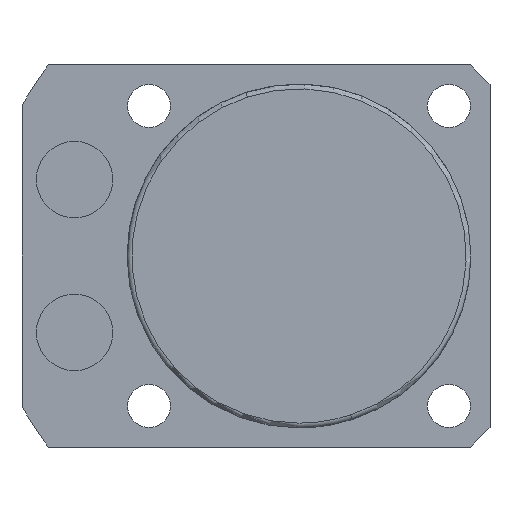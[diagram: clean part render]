
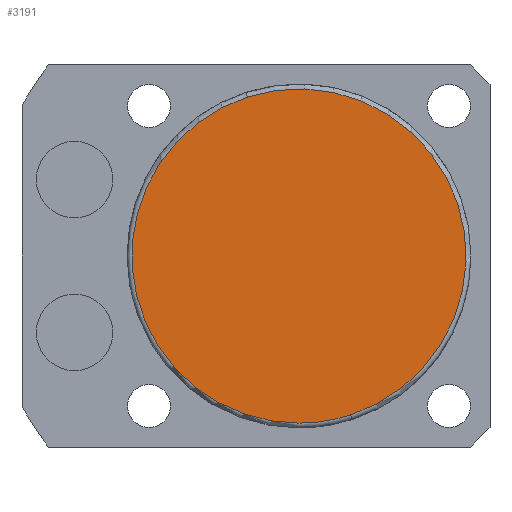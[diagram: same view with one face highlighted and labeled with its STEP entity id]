
A CAD part, front view. The second image highlights one B-rep face of the part: STEP entity #3191.
In plain terms, the highlighted planar face has unit normal (0, -1, 0).
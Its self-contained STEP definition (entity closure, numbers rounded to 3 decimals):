
#3157=CARTESIAN_POINT('',(0.0,-50.5,-17.5));
#3158=VERTEX_POINT('',#3157);
#3159=CARTESIAN_POINT('',(5.408,-50.5,-16.643));
#3160=VERTEX_POINT('',#3159);
#3161=CARTESIAN_POINT('',(0.0,-50.5,0.0));
#3162=DIRECTION('',(0.0,-1.0,0.0));
#3163=DIRECTION('',(0.0,0.0,-1.0));
#3164=AXIS2_PLACEMENT_3D('',#3161,#3162,#3163);
#3165=CIRCLE('',#3164,17.5);
#3166=EDGE_CURVE('no 2328',#3158,#3160,#3165,.T.);
#3167=ORIENTED_EDGE('',*,*,#3166,.T.);
#3168=CARTESIAN_POINT('',(-5.408,-50.5,16.643));
#3169=VERTEX_POINT('',#3168);
#3170=CARTESIAN_POINT('',(0.0,-50.5,0.0));
#3171=DIRECTION('',(0.0,-1.0,0.0));
#3172=DIRECTION('',(0.0,0.0,-1.0));
#3173=AXIS2_PLACEMENT_3D('',#3170,#3171,#3172);
#3174=CIRCLE('',#3173,17.5);
#3175=EDGE_CURVE('no 2334',#3160,#3169,#3174,.T.);
#3176=ORIENTED_EDGE('',*,*,#3175,.T.);
#3177=CARTESIAN_POINT('',(0.0,-50.5,0.0));
#3178=DIRECTION('',(0.0,-1.0,0.0));
#3179=DIRECTION('',(0.0,0.0,-1.0));
#3180=AXIS2_PLACEMENT_3D('',#3177,#3178,#3179);
#3181=CIRCLE('',#3180,17.5);
#3182=EDGE_CURVE('no 2338',#3169,#3158,#3181,.T.);
#3183=ORIENTED_EDGE('',*,*,#3182,.T.);
#3184=EDGE_LOOP('',(#3167,#3176,#3183));
#3185=FACE_OUTER_BOUND('',#3184,.T.);
#3186=CARTESIAN_POINT('',(0.0,-50.5,0.0));
#3187=DIRECTION('',(0.0,-1.0,0.0));
#3188=DIRECTION('',(0.0,0.0,-1.0));
#3189=AXIS2_PLACEMENT_3D('',#3186,#3187,#3188);
#3190=PLANE('',#3189);
#3191=ADVANCED_FACE('no 2319',(#3185),#3190,.T.);
